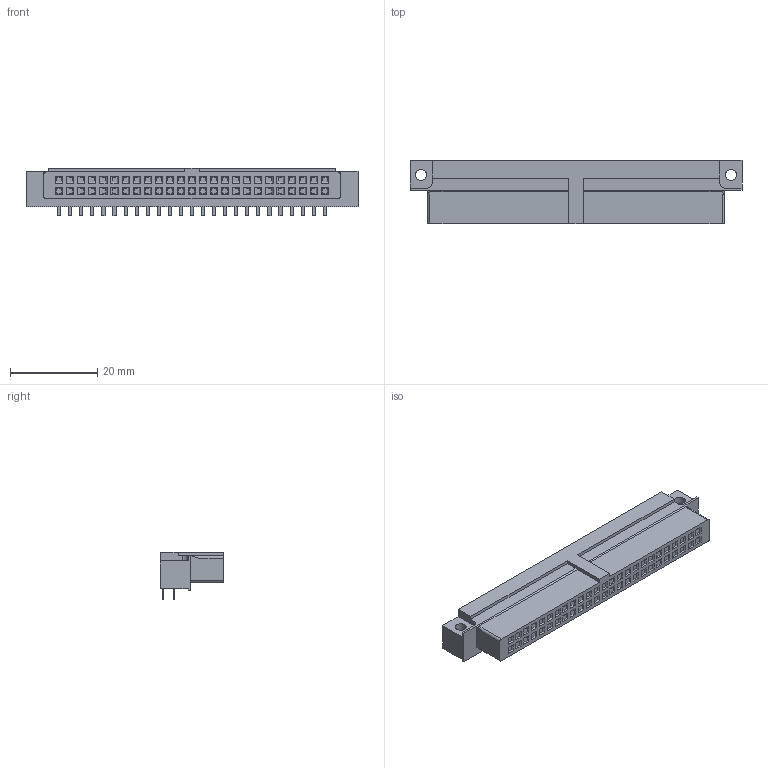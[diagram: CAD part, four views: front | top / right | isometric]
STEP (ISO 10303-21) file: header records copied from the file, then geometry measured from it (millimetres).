
FILE_DESCRIPTION(/* description */ (''),/* implementation_level */ '2;1');
FILE_NAME(/* name */ '78-5110-6059-8.stp',/* time_stamp */ '2012-10-10T09:23:27-05:00',/* author */ (''),/* organization */ (''),/* preprocessor_version */ 'ST-DEVELOPER v11',/* originating_system */ 'SIEMENS PLM Software NX 7.5',/* authorisation */ '');
FILE_SCHEMA (('AUTOMOTIVE_DESIGN { 1 0 10303 214 1 1 1 1 }'));
Length unit declared in the file: inch
Products named in the file (1): 78-5110-6059-8
Bounding box: 76.2 x 14.48 x 10.97 mm (x, y, z)
Volume: 7255.6 mm3; surface area: 4001.7 mm2
Topology: 1 solids, 1 shells, 536 faces, 1302 edges, 868 vertices
Faces by surface type: plane 528, cylinder 8
Full cylindrical faces by diameter (mm): 2.54 x2
Entity records: 15368 total; most frequent: CARTESIAN_POINT 2701, ORIENTED_EDGE 2596, DIRECTION 2388, EDGE_CURVE 1298, LINE 1282, VECTOR 1282, VERTEX_POINT 866, EDGE_LOOP 642
